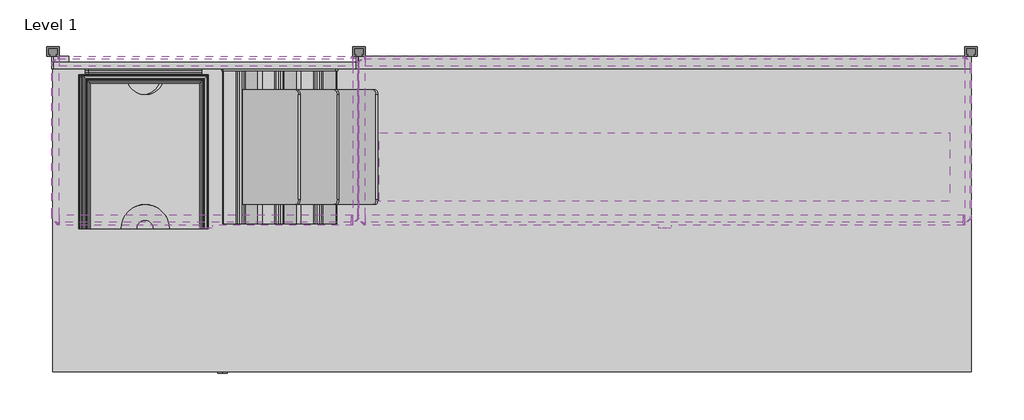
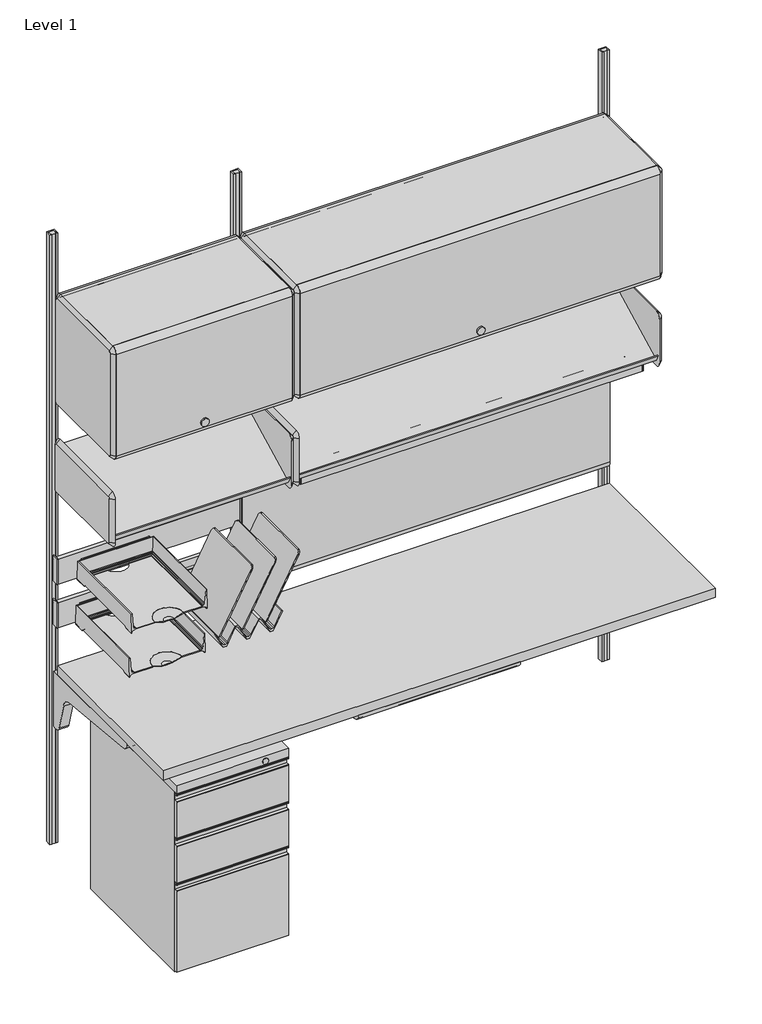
# One storey, incomplete: 18 furniture elements, 1 light fixture.
"""IFC4 building model written with IfcOpenShell, lengths in millimetres."""

from ifc_helpers import new_model, si_unit, origin, place, context, project, spatial, transform, mapped, element, save
from components import furniture_ba537c3b, furniture_5639b6dc, furniture_af2524bc, furniture_f058e72c, furniture_8254671f, furniture_cb78dd66, furniture_439dfb7c, furniture_f3dbc57d, furniture_2ec89b50, furniture_03e73c74, furniture_69a8165b, furniture_82778d6f, furniture_ebb16344, furniture_fa600c10, furniture_8d228605, furniture_ea425779, light_fixture_48w_for_action_office_09e55f13

model = new_model("IFC4")

# Units and contexts
model_context = context("Model", 3, world=origin())
ifc_project = project(units=[si_unit("LENGTHUNIT", "METRE", prefix="MILLI")], contexts=[model_context])

# Site, building, storey
site = spatial("IfcSite", under=ifc_project)
building = spatial("IfcBuilding", under=site)
storey = spatial("IfcBuildingStorey", under=building, Name="Level 1", Elevation=0.0)

# Furniture
placement = place(None, origin())
furniture_shape = furniture_ba537c3b(model_context)
element("IfcFurniture", 1, ObjectType="HermanMiller_ThrivePortfolio_Y7216_PaperTray : 3\"H x 12\"D x 10\"W", at=placement, inside=storey, context=model_context, shape_type="MappedRepresentation", body=[
    mapped(furniture_shape, transform((183.5404, -209.0405855, 0.0), x_axis=(1.0, 0.0, 0.0), y_axis=(0.0, 1.0, 0.0), z_axis=(0.0, 0.0, 1.0))),
])
furniture_2_shape = furniture_5639b6dc(model_context)
element("IfcFurniture", 2, ObjectType="HermanMiller_ThrivePortfolio_Y5010_PencilDrawer : 2\"H x 16\"D x 21\"W", at=placement, inside=storey, context=model_context, shape_type="MappedRepresentation", body=[
    mapped(furniture_2_shape, transform((915.9875, -441.325, 0.0), x_axis=(1.0, 0.0, 0.0), y_axis=(0.0, 1.0, 0.0), z_axis=(0.0, 0.0, 1.0))),
])
furniture_3_shape = furniture_af2524bc(model_context)
element("IfcFurniture", 3, ObjectType="HermanMiller_ThrivePortfolio_Y7218_DiagonalTray : 8 1/2\"H x 12\"D x 13\"W", at=placement, inside=storey, context=model_context, shape_type="MappedRepresentation", body=[
    mapped(furniture_3_shape, transform((451.784477, -198.61276, 0.0), x_axis=(1.0, 0.0, 0.0), y_axis=(0.0, 1.0, 0.0), z_axis=(0.0, 0.0, 1.0))),
])
furniture_4_shape = furniture_f058e72c(model_context)
element("IfcFurniture", 4, ObjectType="HermanMiller_ThrivePortfolio_Y7216_PaperTray : 3\"H x 12\"D x 10\"W", at=placement, inside=storey, context=model_context, shape_type="MappedRepresentation", body=[
    mapped(furniture_4_shape, transform((177.1904, -209.0405855, 0.0), x_axis=(1.0, 0.0, 0.0), y_axis=(0.0, 1.0, 0.0), z_axis=(0.0, 0.0, 1.0))),
])
furniture_5_shape = furniture_8254671f(model_context)
element("IfcFurniture", 5, ObjectType="HermanMiller_ActionOffice_A3610_ToolBar : 4\"H x 24\"W", at=placement, inside=storey, context=model_context, shape_type="MappedRepresentation", body=[
    mapped(furniture_5_shape, transform((302.12538, -31.7499996, 0.0), x_axis=(1.0, 0.0, 0.0), y_axis=(0.0, 1.0, 0.0), z_axis=(0.0, 0.0, 1.0))),
])
furniture_6_shape = furniture_cb78dd66(model_context)
element("IfcFurniture", 6, ObjectType="HermanMiller_ActionOffice_A3410_B-StyleTackboard : 16\"H x 48\"W", at=placement, inside=storey, context=model_context, shape_type="MappedRepresentation", body=[
    mapped(furniture_6_shape, transform((1219.2, -31.75, 0.0), x_axis=(1.0, 0.0, 0.0), y_axis=(0.0, 1.0, 0.0), z_axis=(0.0, 0.0, 1.0))),
])
furniture_7_shape = furniture_439dfb7c(model_context)
element("IfcFurniture", 7, ObjectType="HermanMiller_ActionOffice_A3220_B-StyleStorageDisplay : Display 13\"D x 48\"W", at=placement, inside=storey, context=model_context, shape_type="MappedRepresentation", body=[
    mapped(furniture_7_shape, transform((1340.4673845, -200.025, 0.0), x_axis=(1.0, 0.0, 0.0), y_axis=(0.0, 1.0, 0.0), z_axis=(0.0, 0.0, 1.0))),
])
furniture_8_shape = furniture_f3dbc57d(model_context)
element("IfcFurniture", 8, ObjectType="HermanMiller_ActionOffice_A2310_Sq-EdgeRectangularWorkSurface : 24\"D x 72\"W", at=placement, inside=storey, context=model_context, shape_type="MappedRepresentation", body=[
    mapped(furniture_8_shape, transform((914.4, -333.375, 0.0), x_axis=(1.0, 0.0, 0.0), y_axis=(0.0, 1.0, 0.0), z_axis=(0.0, 0.0, 1.0))),
])
furniture_9_shape = furniture_2ec89b50(model_context)
element("IfcFurniture", 9, ObjectType="HermanMiller_ActionOffice_A3610_ToolBar : 4\"H x 24\"W", at=placement, inside=storey, context=model_context, shape_type="MappedRepresentation", body=[
    mapped(furniture_9_shape, transform((302.12538, -31.7499996, 0.0), x_axis=(1.0, 0.0, 0.0), y_axis=(0.0, 1.0, 0.0), z_axis=(0.0, 0.0, 1.0))),
])
furniture_10_shape = furniture_03e73c74(model_context)
element("IfcFurniture", 10, ObjectType="HermanMiller_ActionOffice_A3220_B-StyleStorageDisplay : Display 13\"D x 24\"W", at=placement, inside=storey, context=model_context, shape_type="MappedRepresentation", body=[
    mapped(furniture_10_shape, transform((426.0673845, -200.025, 0.0), x_axis=(1.0, 0.0, 0.0), y_axis=(0.0, 1.0, 0.0), z_axis=(0.0, 0.0, 1.0))),
])
furniture_11_shape = furniture_69a8165b(model_context)
element("IfcFurniture", 11, ObjectType="HermanMiller_TuStorage_LW100_W-PullFreestandingPedestal : 20D BBF Standard Hgt", at=placement, inside=storey, context=model_context, shape_type="MappedRepresentation", body=[
    mapped(furniture_11_shape, transform((230.1875, -401.6375, 0.0), x_axis=(1.0, 0.0, 0.0), y_axis=(0.0, 1.0, 0.0), z_axis=(0.0, 0.0, 1.0))),
])
furniture_12_shape = furniture_82778d6f(model_context)
element("IfcFurniture", 12, ObjectType="HermanMiller_ActionOffice_B-StyleFlipperDoor : Paint 15-1/2H x 13D x 24W", at=placement, inside=storey, context=model_context, shape_type="MappedRepresentation", body=[
    mapped(furniture_12_shape, transform((304.8, -200.025, 457.2), x_axis=(1.0, 0.0, 0.0), y_axis=(0.0, 1.0, 0.0), z_axis=(0.0, 0.0, 1.0))),
])
furniture_13_shape = furniture_ebb16344(model_context)
element("IfcFurniture", 13, ObjectType="HermanMiller_ActionOffice_B-StyleFlipperDoor : Paint 15-1/2H x 13D x 48W", at=placement, inside=storey, context=model_context, shape_type="MappedRepresentation", body=[
    mapped(furniture_13_shape, transform((1219.2, -200.025, 457.2), x_axis=(1.0, 0.0, 0.0), y_axis=(0.0, 1.0, 0.0), z_axis=(0.0, 0.0, 1.0))),
])
furniture_14_shape = furniture_fa600c10(model_context)
element("IfcFurniture", 14, ObjectType="HermanMiller_CoStruc_B-StyleShelf : 15-1/2H x 13D x 24W", at=placement, inside=storey, context=model_context, shape_type="MappedRepresentation", body=[
    mapped(furniture_14_shape, transform((428.7420045, -200.025, 457.2), x_axis=(1.0, 0.0, 0.0), y_axis=(0.0, 1.0, 0.0), z_axis=(0.0, 0.0, 1.0))),
])
furniture_15_shape = furniture_8d228605(model_context)
element("IfcFurniture", 15, ObjectType="HermanMiller_CoStruc_B-StyleShelf : 15-1/2H x 13D x 48W", at=placement, inside=storey, context=model_context, shape_type="MappedRepresentation", body=[
    mapped(furniture_15_shape, transform((1343.1420045, -200.025, 457.2), x_axis=(1.0, 0.0, 0.0), y_axis=(0.0, 1.0, 0.0), z_axis=(0.0, 0.0, 1.0))),
])
furniture_16_shape = furniture_ea425779(model_context)
element("IfcFurniture", 16, ObjectType="HermanMiller_ActionOffice_AO213_WallStrip : 84\"H", at=placement, inside=storey, context=model_context, shape_type="MappedRepresentation", body=[
    mapped(furniture_16_shape, transform((1828.8, 0.0, 0.0), x_axis=(1.0, 0.0, 0.0), y_axis=(0.0, 1.0, 0.0), z_axis=(0.0, 0.0, 1.0))),
])
element("IfcFurniture", 17, ObjectType="HermanMiller_ActionOffice_AO213_WallStrip : 84\"H", at=placement, inside=storey, context=model_context, shape_type="MappedRepresentation", body=[
    mapped(furniture_16_shape, transform((609.6, 0.0, 0.0), x_axis=(1.0, 0.0, 0.0), y_axis=(0.0, 1.0, 0.0), z_axis=(0.0, 0.0, 1.0))),
])
element("IfcFurniture", 18, ObjectType="HermanMiller_ActionOffice_AO213_WallStrip : 84\"H", at=placement, inside=storey, context=model_context, shape_type="MappedRepresentation", body=[
    mapped(furniture_16_shape, transform((0.0, 0.0, 0.0), x_axis=(1.0, 0.0, 0.0), y_axis=(0.0, 1.0, 0.0), z_axis=(0.0, 0.0, 1.0))),
])

# Light fixture
light_fixture_48w_for_action_office_shape = light_fixture_48w_for_action_office_09e55f13(model_context)
element("IfcLightFixture", 19, ObjectType="HermanMiller_SupplementalProducts_G6170_EUnderShelfLEDTaskLight : 48W for Action Office", at=placement, inside=storey, context=model_context, shape_type="MappedRepresentation", body=[
    mapped(light_fixture_48w_for_action_office_shape, transform((1218.12558, -239.7125, 124.8679666), x_axis=(1.0, 0.0, 0.0), y_axis=(0.0, 1.0, 0.0), z_axis=(0.0, 0.0, 1.0))),
])

save(model, "model.ifc")
